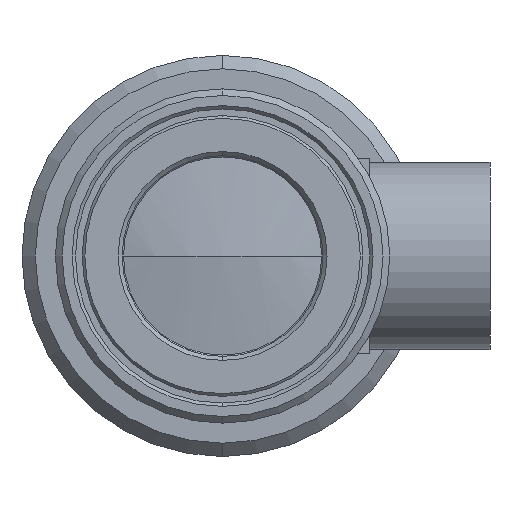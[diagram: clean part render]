
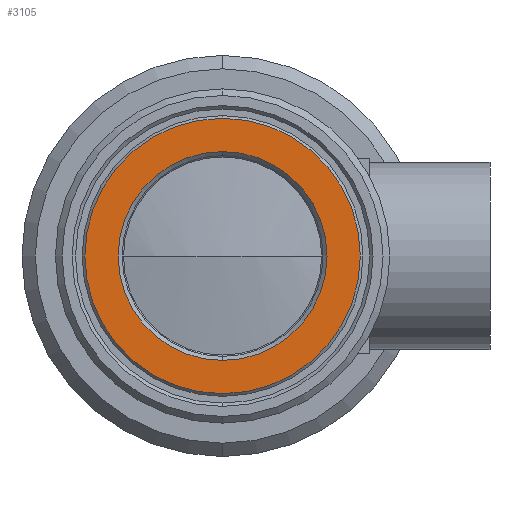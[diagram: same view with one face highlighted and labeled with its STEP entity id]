
A CAD part, left-side view. The second image highlights one B-rep face of the part: STEP entity #3105.
In plain terms, the highlighted planar face has unit normal (-1, 0, 0).
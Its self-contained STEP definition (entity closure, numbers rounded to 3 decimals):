
#318 = DIRECTION ( 'NONE',  ( -1., 0., 0. ) ) ;
#419 = CARTESIAN_POINT ( 'NONE',  ( 2.233, 0.001, 0. ) ) ;
#564 = CARTESIAN_POINT ( 'NONE',  ( 2.233, 0.001, 0. ) ) ;
#700 = CARTESIAN_POINT ( 'NONE',  ( 2.233, 0.001, 0. ) ) ;
#759 = DIRECTION ( 'NONE',  ( 0., 0., 1. ) ) ;
#798 = ORIENTED_EDGE ( 'NONE', *, *, #1650, .F. ) ;
#810 = CARTESIAN_POINT ( 'NONE',  ( 2.233, 0.001, 7.81 ) ) ;
#888 = DIRECTION ( 'NONE',  ( 0., 0., 1. ) ) ;
#978 = CIRCLE ( 'NONE', #4154, 10.3 ) ;
#993 = CARTESIAN_POINT ( 'NONE',  ( 2.233, 0., 0. ) ) ;
#1023 = DIRECTION ( 'NONE',  ( 0., 0., 1. ) ) ;
#1132 = EDGE_CURVE ( 'NONE', #2595, #1378, #4217, .T. ) ;
#1202 = EDGE_CURVE ( 'NONE', #2436, #3886, #1910, .T. ) ;
#1225 = ORIENTED_EDGE ( 'NONE', *, *, #1793, .T. ) ;
#1325 = AXIS2_PLACEMENT_3D ( 'NONE', #700, #3030, #1023 ) ;
#1378 = VERTEX_POINT ( 'NONE', #1652 ) ;
#1482 = CARTESIAN_POINT ( 'NONE',  ( 2.233, 0.001, 10.3 ) ) ;
#1529 = FACE_BOUND ( 'NONE', #4266, .T. ) ;
#1650 = EDGE_CURVE ( 'NONE', #1378, #2595, #3287, .T. ) ;
#1652 = CARTESIAN_POINT ( 'NONE',  ( 2.233, 0.001, -7.81 ) ) ;
#1656 = DIRECTION ( 'NONE',  ( -1., 0., 0. ) ) ;
#1793 = EDGE_CURVE ( 'NONE', #3886, #2436, #978, .T. ) ;
#1868 = EDGE_LOOP ( 'NONE', ( #2560, #1225 ) ) ;
#1910 = CIRCLE ( 'NONE', #1325, 10.3 ) ;
#2061 = CARTESIAN_POINT ( 'NONE',  ( 2.233, 0.001, -10.3 ) ) ;
#2291 = AXIS2_PLACEMENT_3D ( 'NONE', #419, #2752, #759 ) ;
#2307 = CARTESIAN_POINT ( 'NONE',  ( 2.233, 0.001, 0. ) ) ;
#2436 = VERTEX_POINT ( 'NONE', #2061 ) ;
#2560 = ORIENTED_EDGE ( 'NONE', *, *, #1202, .T. ) ;
#2595 = VERTEX_POINT ( 'NONE', #810 ) ;
#2650 = DIRECTION ( 'NONE',  ( 0., 0., 1. ) ) ;
#2752 = DIRECTION ( 'NONE',  ( -1., 0., 0. ) ) ;
#2887 = DIRECTION ( 'NONE',  ( -1., 0., 0. ) ) ;
#3030 = DIRECTION ( 'NONE',  ( -1., 0., 0. ) ) ;
#3105 = ADVANCED_FACE ( 'NONE', ( #3520, #1529 ), #4327, .T. ) ;
#3287 = CIRCLE ( 'NONE', #2291, 7.81 ) ;
#3520 = FACE_OUTER_BOUND ( 'NONE', #1868, .T. ) ;
#3867 = AXIS2_PLACEMENT_3D ( 'NONE', #993, #1656, #4006 ) ;
#3886 = VERTEX_POINT ( 'NONE', #1482 ) ;
#3902 = ORIENTED_EDGE ( 'NONE', *, *, #1132, .F. ) ;
#4006 = DIRECTION ( 'NONE',  ( 0., 0., 1. ) ) ;
#4129 = AXIS2_PLACEMENT_3D ( 'NONE', #2307, #318, #2650 ) ;
#4154 = AXIS2_PLACEMENT_3D ( 'NONE', #564, #2887, #888 ) ;
#4217 = CIRCLE ( 'NONE', #4129, 7.81 ) ;
#4266 = EDGE_LOOP ( 'NONE', ( #3902, #798 ) ) ;
#4327 = PLANE ( 'NONE',  #3867 ) ;
